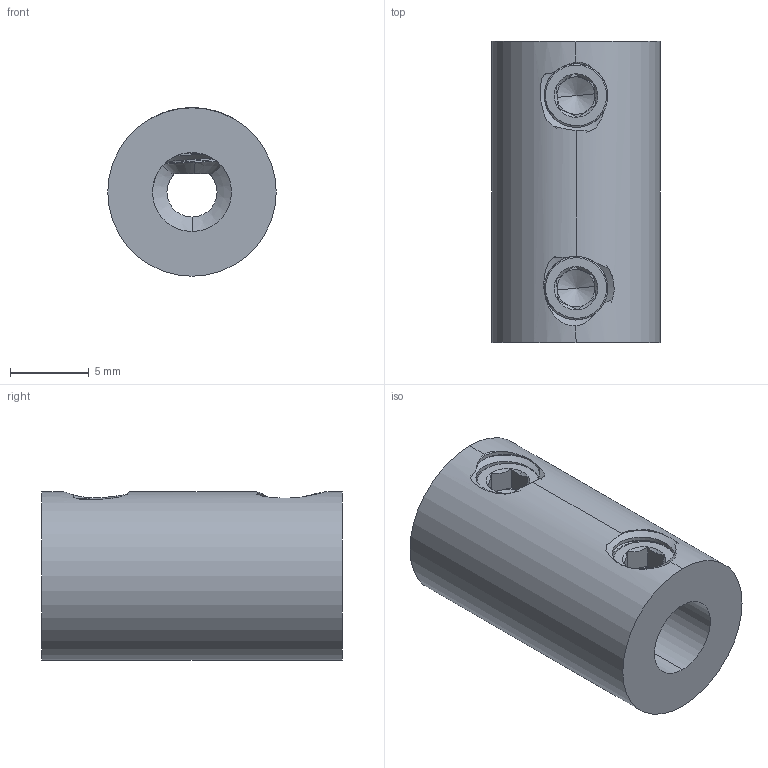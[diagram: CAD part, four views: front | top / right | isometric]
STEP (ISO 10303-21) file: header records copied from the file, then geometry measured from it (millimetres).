
FILE_DESCRIPTION (( 'STEP AP203' ), '1' );
FILE_NAME ('625162 assembly.STEP', '2016-08-25T21:42:42', ( '' ), ( '' ), 'SwSTEP 2.0', 'SolidWorks 2014', '' );
FILE_SCHEMA (( 'CONFIG_CONTROL_DESIGN' ));
Length unit declared in the file: inch
Products named in the file (3): 632134_91375A436; 625162 assembly; 625162
Assembly tree (3 placements, depth 2):
  625162 assembly
    625162
    632134_91375A436  x2
Bounding box: 10.67 x 19.05 x 10.67 mm (x, y, z)
Volume: 1394.3 mm3; surface area: 1339.9 mm2
Topology: 3 solids, 3 shells, 182 faces, 493 edges, 308 vertices
Faces by surface type: cylinder 86, cone 37, plane 30, bspline 29
Entity records: 14550 total; most frequent: CARTESIAN_POINT 11269, ORIENTED_EDGE 802, DIRECTION 419, EDGE_CURVE 401, VERTEX_POINT 259, AXIS2_PLACEMENT_3D 162, EDGE_LOOP 148, ADVANCED_FACE 144
